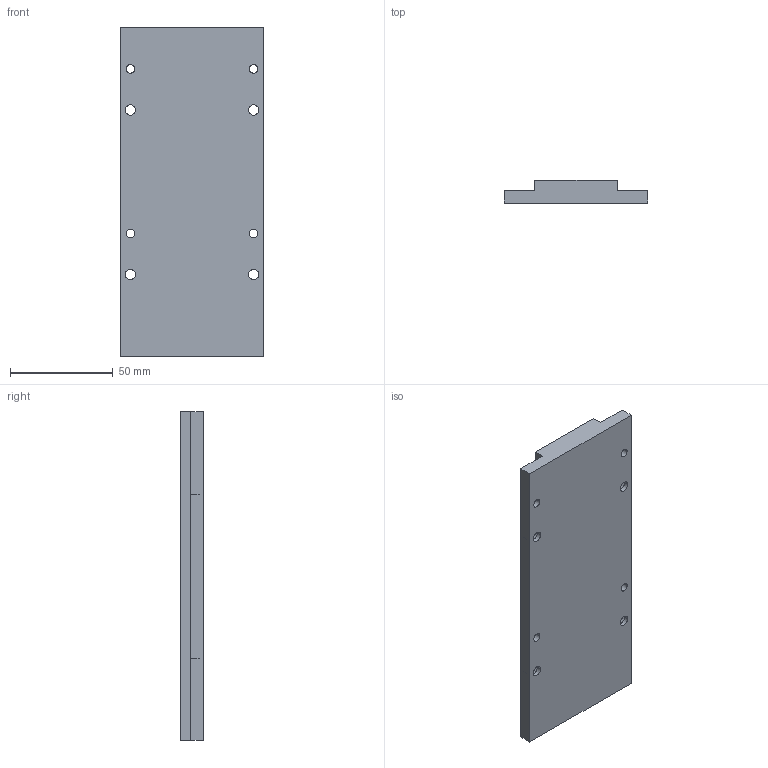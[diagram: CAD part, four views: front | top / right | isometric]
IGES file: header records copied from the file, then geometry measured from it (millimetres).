
Global section: file name: No Iges File Name specified; native system: AutoDesk Inventor R12.0; preprocessor: AutoDesk Inventor Iges Exporter R12.0; date: 20081121.153037; units: inch
Bounding box: 70 x 11.1 x 159.74 mm (x, y, z)
Volume: 98845.7 mm3; surface area: 27843.1 mm2
Topology: 1 solids, 1 shells, 38 faces, 96 edges, 64 vertices
Faces by surface type: bspline 28, plane 10
